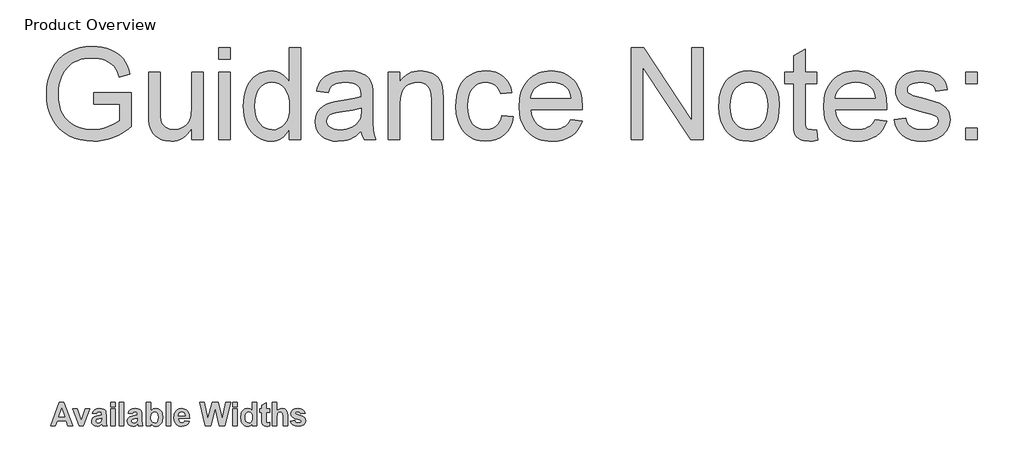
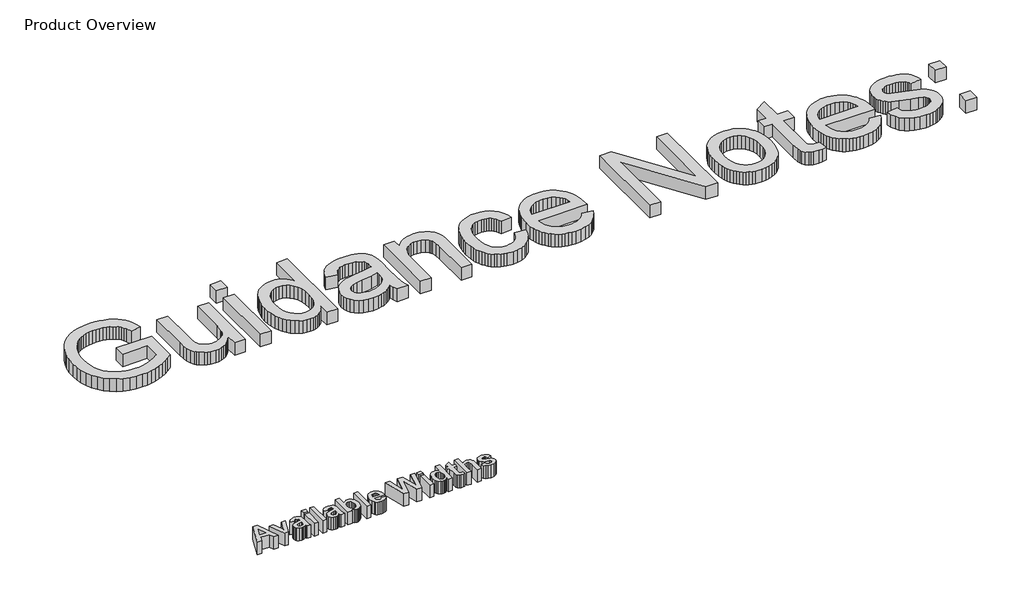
# One storey, part 10 of 12: 2 proxies.
"""IFC4 building model written with IfcOpenShell, lengths in millimetres."""

from ifc_helpers import new_model, si_unit, origin, origin_with_axes, place, context, project, spatial, polyline, outline, extrude, element, save

model = new_model("IFC4")

# Units and contexts
model_context = context("Model", 3, world=origin())
ifc_project = project(units=[si_unit("LENGTHUNIT", "METRE", prefix="MILLI")], contexts=[model_context])

# Site, building, storey
site = spatial("IfcSite", under=ifc_project)
building = spatial("IfcBuilding", under=site)
storey = spatial("IfcBuildingStorey", under=building, Name="Product Overview", Elevation=0.0)

# Proxies
placement = place(None, origin())
element("IfcBuildingElementProxy", 1, Name="1000mm", ObjectType="1000mm", at=placement, inside=storey, context=model_context, shape_type="SweptSolid", body=[
    extrude(outline(polyline([(8665.372592, -8459.5655223), (8665.372592, -8337.1412799), (9063.2513799, -8337.1412799), (9063.2513799, -8703.2184579), (9015.2874387, -8739.2194345), (8966.5613349, -8770.4681028), (8917.0730684, -8796.9644629), (8866.8226393, -8818.7085147), (8815.8698251, -8835.6554252), (8764.2744031, -8847.7603613), (8712.0363734, -8855.023323), (8659.1557359, -8857.4443102), (8588.8350239, -8853.5961361), (8521.8170167, -8842.0516137), (8458.1017143, -8822.8107431), (8397.6891166, -8795.8735242), (8342.5294634, -8761.643455), (8294.5729945, -8720.5240332), (8253.8197097, -8672.5152589), (8220.269609, -8617.6171322), (8194.0646641, -8557.5856158), (8175.3468463, -8494.1766729), (8164.1161556, -8427.3903033), (8160.372592, -8357.2265072), (8164.1012112, -8287.0552388), (8175.2870688, -8219.2900133), (8193.9301648, -8153.9308307), (8220.0304992, -8090.9776909), (8253.1247967, -8033.1953015), (8292.7497819, -7983.3483703), (8338.9054548, -7941.4368972), (8391.5918155, -7907.4608822), (8449.6656199, -7881.2036319), (8511.9836242, -7862.4484532), (8578.5458283, -7851.1953459), (8649.3522321, -7847.4443102), (8701.0447925, -7849.6187154), (8750.1968107, -7856.1419309), (8796.8082868, -7867.0139568), (8840.8792208, -7882.2347931), (8881.3709792, -7901.3336923), (8917.2449286, -7923.8399068), (8948.5010691, -7949.7534366), (8975.1394007, -7979.0742818), (8998.0117521, -8012.4674666), (9017.9699523, -8050.5980152), (9035.0140012, -8093.4659277), (9049.1438988, -8141.0712041), (8936.2840503, -8172.872814), (8911.08785, -8108.3430436), (8896.449844, -8082.0185437), (8880.4519007, -8059.6543007), (8861.9806649, -8040.286403), (8839.9227814, -8022.950939), (8814.2782501, -8007.6479087), (8785.0470712, -7994.3773121), (8753.1782117, -7983.6547298), (8719.6206389, -7975.9957425), (8684.3743528, -7971.4003501), (8647.4393534, -7969.8685526), (8603.6598345, -7971.519905), (8562.9439106, -7976.4739622), (8525.2915817, -7984.7307241), (8490.7028477, -7996.2901909), (8459.2449582, -8010.5321712), (8430.985163, -8026.836474), (8405.923462, -8045.2030992), (8384.0598552, -8065.6320469), (8348.0439343, -8110.6743646), (8321.0544102, -8159.9608822), (8304.3167208, -8205.2423097), (8292.3612284, -8252.3768386), (8285.1879329, -8301.3644688), (8282.7968344, -8352.2052003), (8285.6736248, -8413.3351275), (8294.3039959, -8469.2793599), (8308.6879477, -8520.0378974), (8328.8254802, -8565.6107401), (8354.4550671, -8605.8260278), (8385.315182, -8640.5119001), (8421.4058247, -8669.6683573), (8462.7269954, -8693.2953992), (8507.3433987, -8711.5499417), (8553.3197392, -8724.5889006), (8600.6560171, -8732.412276), (8649.3522321, -8735.0200678), (8692.0109235, -8733.0548837), (8734.1465622, -8727.1593315), (8775.759148, -8717.3334112), (8816.848681, -8703.5771227), (8888.6713017, -8671.088072), (8940.8271374, -8636.5068102), (8940.8271374, -8459.5655223), (8665.372592, -8459.5655223)])), origin_with_axes(), (0.0, 0.0, 1.0), 150.0),
    extrude(outline(polyline([(9705.9786526, -8842.1412799), (9705.9786526, -8718.5214882), (9684.7427092, -8751.0815246), (9661.6835532, -8779.3002228), (9636.8011846, -8803.1775829), (9610.0956034, -8822.7136047), (9581.5668096, -8837.9082883), (9551.2148032, -8848.7616338), (9519.0395842, -8855.2736411), (9485.0411526, -8857.4443102), (9425.4131341, -8851.347009), (9397.1458667, -8843.7253826), (9369.9097606, -8833.0551056), (9323.3431176, -8805.5574731), (9305.2156022, -8789.4773358), (9290.5252909, -8771.8429844), (9268.4375186, -8730.8954229), (9254.061039, -8681.6985715), (9248.6810674, -8635.3112609), (9246.8877435, -8567.8822837), (9246.8877435, -8122.8988556), (9369.3119859, -8122.8988556), (9369.3119859, -8510.2568102), (9371.1650873, -8587.7284011), (9376.7243912, -8635.0721511), (9384.0546025, -8657.1375068), (9394.5679637, -8676.7071535), (9408.2644747, -8693.7810911), (9425.1441356, -8708.3593197), (9444.6988378, -8720.023397), (9466.4204731, -8728.3548807), (9490.3090414, -8733.353771), (9516.3645427, -8735.0200678), (9543.1971511, -8733.3164101), (9569.1779305, -8728.2054371), (9594.3068812, -8719.6871487), (9618.584003, -8707.761545), (9640.6941918, -8692.8993735), (9659.3223434, -8675.5713817), (9674.4684579, -8655.7775695), (9686.1325352, -8633.5179371), (9694.8152115, -8607.3727696), (9701.0171232, -8575.9223523), (9705.9786526, -8497.1057685), (9705.9786526, -8122.8988556), (9828.402895, -8122.8988556), (9828.402895, -8842.1412799), (9705.9786526, -8842.1412799)])), origin_with_axes(), (0.0, 0.0, 1.0), 150.0),
    extrude(outline(polyline([(9996.7362284, -8842.1412799), (9996.7362284, -8122.8988556), (10119.1604708, -8122.8988556), (10119.1604708, -8842.1412799), (9996.7362284, -8842.1412799)])), origin_with_axes(), (0.0, 0.0, 1.0), 150.0),
    extrude(outline(polyline([(9996.7362284, -7985.1715829), (9996.7362284, -7862.7473405), (10119.1604708, -7862.7473405), (10119.1604708, -7985.1715829), (9996.7362284, -7985.1715829)])), origin_with_axes(), (0.0, 0.0, 1.0), 150.0),
    extrude(outline(polyline([(10746.5847132, -8842.1412799), (10746.5847132, -8726.6512231), (10729.2380409, -8757.3058529), (10709.9560733, -8783.8731987), (10688.7388103, -8806.3532605), (10665.586252, -8824.7460384), (10640.4983984, -8839.0515323), (10613.4752494, -8849.2697422), (10584.5168051, -8855.4006682), (10553.6230655, -8857.4443102), (10513.2135011, -8854.4853258), (10474.4777056, -8845.6083727), (10437.4156791, -8830.8134508), (10402.0274215, -8810.1005602), (10369.4188159, -8784.089892), (10340.6957454, -8753.4016374), (10315.8582099, -8718.0357963), (10294.9062094, -8677.9923689), (10278.2731306, -8634.0335177), (10266.39236, -8586.9214054), (10259.2638976, -8536.6560319), (10256.8877435, -8483.2373973), (10259.0770931, -8430.7976187), (10265.6451417, -8380.8386047), (10276.5918895, -8333.3603554), (10291.9173363, -8288.3628708), (10311.6140101, -8247.161255), (10335.6744386, -8211.0706123), (10364.0986218, -8180.0909425), (10396.8865598, -8154.2222458), (10432.8800642, -8133.8231868), (10470.9209466, -8119.2524305), (10511.0092072, -8110.5099766), (10553.1448458, -8107.5958253), (10583.9601275, -8109.6805643), (10613.0418628, -8115.9347813), (10640.3900517, -8126.3584763), (10666.0046943, -8140.9516492), (10689.6018474, -8158.8774157), (10710.8975683, -8179.2988912), (10729.8918569, -8202.2160757), (10746.5847132, -8227.6289693), (10746.5847132, -7862.7473405), (10869.0089556, -7862.7473405), (10869.0089556, -8842.1412799), (10746.5847132, -8842.1412799)]), holes=[polyline([(10379.3119859, -8482.7591776), (10382.7641344, -8542.1256697), (10393.1205797, -8593.4969262), (10410.3813219, -8636.8729471), (10434.5463609, -8672.2537325), (10463.4039308, -8699.7140042), (10494.7422653, -8719.328484), (10528.5613645, -8731.0971718), (10564.8612284, -8735.0200678), (10601.3329524, -8731.2765042), (10634.9503027, -8720.0458135), (10665.7132791, -8701.3279957), (10693.6218818, -8675.1230507), (10716.7931205, -8641.2217575), (10733.3440053, -8599.4148949), (10743.2745362, -8549.702463), (10746.5847132, -8492.0844617), (10743.2147588, -8428.9146286), (10733.1048955, -8374.7413036), (10716.2551234, -8329.5644866), (10692.6654424, -8293.3841776), (10664.1441208, -8265.6623796), (10632.4994267, -8245.8610952), (10597.7313603, -8233.9803246), (10559.8399215, -8230.0200678), (10522.8227281, -8233.8234088), (10489.0036289, -8245.2334319), (10458.382624, -8264.250137), (10430.9597132, -8290.8735242), (10408.3638325, -8325.6864237), (10392.2239177, -8369.2716658), (10382.5399689, -8421.6292504), (10379.3119859, -8482.7591776)])]), origin_with_axes(), (0.0, 0.0, 1.0), 150.0),
    extrude(outline(polyline([(11511.7362284, -8750.3230981), (11482.7067983, -8777.5666764), (11453.2439817, -8800.4763888), (11423.3477784, -8819.0522351), (11393.0181886, -8833.2942155), (11361.9114917, -8843.8598819), (11329.6839675, -8851.4067865), (11261.8664367, -8857.4443102), (11207.3568634, -8853.8128294), (11159.5573103, -8842.9183869), (11118.4677772, -8824.7609828), (11084.0882643, -8799.340617), (11056.9418244, -8768.2712811), (11037.5515101, -8733.1669664), (11025.9173215, -8694.0276731), (11022.0392587, -8650.8534011), (11027.8974499, -8600.1023358), (11045.4720238, -8554.0139125), (11072.5811029, -8514.5607875), (11107.0428098, -8483.715617), (11147.5420404, -8460.4024068), (11192.7636905, -8443.5451625), (11236.8196801, -8434.1601009), (11298.6893534, -8425.1337041), (11423.863359, -8405.7658064), (11472.1934372, -8394.8265308), (11511.0188988, -8383.0503708), (11511.7362284, -8355.7918481), (11509.6290728, -8326.1123381), (11503.3076062, -8301.1552477), (11492.7718285, -8280.9205768), (11478.0217397, -8265.4083253), (11452.5266521, -8249.9259626), (11421.4722606, -8238.8671322), (11384.858565, -8232.2318339), (11342.6855655, -8230.0200678), (11303.4715503, -8231.4920878), (11269.7570617, -8235.9081478), (11241.5420996, -8243.2682478), (11218.826664, -8253.5723878), (11200.1611514, -8267.6275636), (11184.0959585, -8286.2407709), (11170.6310851, -8309.4120096), (11159.7665314, -8337.1412799), (11037.342289, -8321.8382496), (11046.6601009, -8286.5695469), (11058.5931767, -8254.887492), (11073.1415166, -8226.7920848), (11090.3051204, -8202.2833253), (11110.8237343, -8180.8680495), (11135.4371043, -8162.0530933), (11164.1452305, -8145.8384567), (11196.9481128, -8132.2241397), (11233.1807271, -8121.4492522), (11272.1780489, -8113.7529039), (11313.9400784, -8109.135095), (11358.4668155, -8107.5958253), (11441.2287118, -8113.0355744), (11476.1761106, -8119.8352607), (11506.8344765, -8129.3548215), (11556.3003264, -8153.8934698), (11575.3618646, -8168.2475328), (11590.6424784, -8183.9914219), (11613.4176914, -8221.2028921), (11628.1827246, -8267.0820943), (11632.6660342, -8309.4045375), (11634.1604708, -8374.2033064), (11634.1604708, -8526.5162799), (11635.7146848, -8659.1923571), (11640.3773268, -8739.2044901), (11649.583056, -8791.778768), (11664.7665314, -8842.1412799), (11542.342289, -8842.1412799), (11522.7352814, -8799.5797269), (11511.7362284, -8750.3230981)]), holes=[polyline([(11511.7362284, -8505.4746132), (11429.4824405, -8525.8587278), (11314.2314935, -8543.0148594), (11250.71794, -8552.399921), (11208.9036052, -8562.8609769), (11181.4956389, -8576.4304608), (11161.2011905, -8595.1408064), (11148.6479234, -8617.5573547), (11144.4635011, -8642.2454465), (11146.7425168, -8661.2696239), (11153.5795641, -8678.649921), (11164.9746428, -8694.3863379), (11180.927753, -8708.4788746), (11201.289451, -8720.0906466), (11225.9102932, -8728.3847695), (11254.7902796, -8733.3612432), (11287.9294102, -8735.0200678), (11321.7634537, -8733.189383), (11353.6846185, -8727.6973287), (11383.6929045, -8718.5439048), (11411.7883117, -8705.7291113), (11437.1339556, -8690.3139983), (11458.8929518, -8673.3596156), (11477.0653003, -8654.8659632), (11491.6510011, -8634.8330412), (11500.1244563, -8616.8998026), (11506.1769244, -8595.1408064), (11511.0188988, -8540.1455412), (11511.7362284, -8505.4746132)])]), origin_with_axes(), (0.0, 0.0, 1.0), 150.0),
    extrude(outline(polyline([(11802.4938041, -8842.1412799), (11802.4938041, -8122.8988556), (11924.9180465, -8122.8988556), (11924.9180465, -8223.324992), (11945.1153565, -8196.2009686), (11967.4497108, -8172.6934816), (11991.9211094, -8152.8025311), (12018.5295522, -8136.528117), (12047.2750393, -8123.8702394), (12078.1575707, -8114.8288983), (12111.1771463, -8109.4040936), (12146.3337662, -8107.5958253), (12206.6791142, -8113.4241279), (12261.943378, -8130.9090356), (12286.6464142, -8143.477247), (12308.0318013, -8157.868671), (12326.0995392, -8174.0833076), (12340.849628, -8192.1211568), (12363.1167326, -8233.5768268), (12377.5529897, -8282.1460147), (12382.3949641, -8328.5931028), (12384.0089556, -8400.5053897), (12384.0089556, -8842.1412799), (12261.5847132, -8842.1412799), (12261.5847132, -8417.0039693), (12258.0578429, -8353.6996369), (12247.4772321, -8308.6872079), (12239.0710265, -8291.6581034), (12227.9598908, -8276.4372671), (12197.6228287, -8251.4203992), (12158.7375896, -8235.3701506), (12113.575717, -8230.0200678), (12076.4016077, -8233.0238852), (12041.8726512, -8242.0353376), (12009.9888473, -8257.054425), (11980.7501962, -8278.0811473), (11956.3236307, -8307.506603), (11938.8760839, -8347.7218907), (11928.4075559, -8398.7270102), (11924.9180465, -8460.5219617), (11924.9180465, -8842.1412799), (11802.4938041, -8842.1412799)])), origin_with_axes(), (0.0, 0.0, 1.0), 150.0),
    extrude(outline(polyline([(13011.4331981, -8581.9897647), (13133.8574405, -8597.292795), (13120.5420108, -8655.06024), (13099.7245096, -8706.1774423), (13071.4049369, -8750.6444019), (13035.5832927, -8788.4611189), (12993.768958, -8818.6412651), (12947.4713136, -8840.1985124), (12896.6903595, -8853.1328607), (12841.4260958, -8857.4443102), (12772.7642083, -8851.4292031), (12741.0952297, -8843.9103192), (12711.2008945, -8833.3838817), (12683.0812028, -8819.8498906), (12656.7361544, -8803.3083461), (12632.1657494, -8783.7592479), (12609.3699878, -8761.2025962), (12588.8308254, -8735.8364037), (12571.0302181, -8707.8586834), (12555.9681656, -8677.2694352), (12543.6446682, -8644.0686591), (12534.0597258, -8608.2563552), (12527.2133383, -8569.8325234), (12521.7362284, -8485.1502761), (12524.0750216, -8428.8623233), (12531.0914012, -8376.2058514), (12542.7853672, -8327.1808603), (12559.1569196, -8281.78735), (12580.3181412, -8240.9369268), (12606.3811147, -8205.541197), (12637.3458401, -8175.6001607), (12673.2123174, -8151.1138178), (12712.3590829, -8132.0746961), (12753.164673, -8118.4753234), (12795.6290876, -8110.3156999), (12839.7523268, -8107.5958253), (12894.0676234, -8111.3319167), (12943.197225, -8122.5401909), (12987.1411319, -8141.2206478), (13025.8993439, -8167.3732875), (13058.814309, -8200.4003353), (13085.228475, -8239.7040166), (13105.1418421, -8285.2843315), (13118.5544102, -8337.1412799), (12996.1301677, -8352.4443102), (12986.573246, -8323.8482667), (12973.9228406, -8299.0331478), (12958.1789515, -8277.9989533), (12939.3415787, -8260.7456833), (12917.888942, -8247.3032265), (12894.299261, -8237.7014716), (12868.5725358, -8231.9404187), (12840.7087662, -8230.0200678), (12799.1111248, -8233.8009922), (12761.5932951, -8245.1437657), (12728.1552772, -8264.0483881), (12698.7970712, -8290.5148594), (12674.8935585, -8325.1558987), (12657.8196209, -8368.584225), (12647.5752583, -8420.7998381), (12644.1604708, -8481.8027382), (12647.5005365, -8543.7247168), (12657.5207336, -8596.5455768), (12674.221062, -8640.2653181), (12697.6015219, -8674.8839409), (12726.3768977, -8701.1934964), (12759.2619741, -8719.986036), (12796.256751, -8731.2615598), (12837.3612284, -8735.0200678), (12870.4854146, -8732.6738024), (12900.7552269, -8725.6350062), (12928.1706655, -8713.9036793), (12952.7317302, -8697.4798215), (12973.7509804, -8676.1841007), (12990.540975, -8649.8371842), (13003.1017143, -8618.4390723), (13011.4331981, -8581.9897647)])), origin_with_axes(), (0.0, 0.0, 1.0), 150.0),
    extrude(outline(polyline([(13744.5439935, -8627.8988556), (13864.5771374, -8643.2018859), (13846.1731513, -8691.2779099), (13821.3281436, -8733.6451861), (13790.0421144, -8770.3037148), (13752.3150636, -8801.2534958), (13708.5355448, -8825.8369771), (13659.0921114, -8843.3966066), (13603.9847635, -8853.9323843), (13543.2135011, -8857.4443102), (13504.1974988, -8855.9293251), (13467.2512911, -8851.38437), (13432.374878, -8843.8094447), (13399.5682596, -8833.2045493), (13368.8314358, -8819.5696838), (13340.1644066, -8802.9048482), (13313.5671721, -8783.2100425), (13289.0397321, -8760.4852666), (13267.0154734, -8735.0256719), (13247.9277826, -8707.1264095), (13231.7766595, -8676.7874794), (13218.5621043, -8644.0088817), (13208.2841169, -8608.7906163), (13200.9426973, -8571.1326832), (13195.0695617, -8488.497814), (13201.0024748, -8403.0608762), (13208.4186162, -8364.1420123), (13218.8012141, -8327.7562183), (13232.1502687, -8293.9034943), (13248.4657797, -8262.5838403), (13267.7477474, -8233.7972561), (13289.9961715, -8207.543742), (13314.6095416, -8184.118449), (13340.9863467, -8163.8165285), (13369.126587, -8146.6379803), (13399.0302624, -8132.5828045), (13430.697373, -8121.6510011), (13464.1279187, -8113.8425701), (13499.3218995, -8109.1575115), (13536.2793155, -8107.5958253), (13572.0281059, -8109.1537754), (13606.1068634, -8113.8276258), (13638.5155881, -8121.6173763), (13669.25428, -8132.523027), (13698.322939, -8146.544578), (13725.7215651, -8163.6820292), (13751.4501584, -8183.9353806), (13775.5087189, -8207.3046322), (13797.2807914, -8233.4983688), (13816.1499209, -8262.2251755), (13832.1161075, -8293.4850521), (13845.179351, -8327.2779986), (13855.3396515, -8363.6040151), (13862.597009, -8402.4631016), (13868.402895, -8487.7804844), (13867.6855655, -8520.7776435), (13317.4938041, -8520.7776435), (13324.5849056, -8569.6307744), (13338.6849144, -8612.416493), (13359.7938307, -8649.1347991), (13387.9116545, -8679.7856928), (13421.4841717, -8703.9507318), (13458.9571682, -8721.211474), (13500.3306442, -8731.5679193), (13545.6045996, -8735.0200678), (13579.4685319, -8733.4210207), (13610.7620333, -8728.6238793), (13639.4851038, -8720.6286438), (13665.6377435, -8709.435314), (13689.2199523, -8694.7450027), (13710.2317302, -8676.2588225), (13728.6730773, -8653.9767735), (13744.5439935, -8627.8988556)]), holes=[polyline([(13317.4938041, -8398.3534011), (13745.9786526, -8398.3534011), (13739.6870747, -8363.7123618), (13729.4202956, -8333.6741871), (13715.1783152, -8308.2388769), (13696.9611337, -8287.4064314), (13663.5754211, -8262.2998973), (13625.5868439, -8244.3666587), (13582.9954021, -8233.6067155), (13535.8010958, -8230.0200678), (13492.7538509, -8232.8819138), (13453.2783093, -8241.4674518), (13417.3744711, -8255.7766818), (13385.0423363, -8275.8096037), (13357.9108407, -8300.6396671), (13337.6089201, -8329.3403211), (13324.1365746, -8361.9115657), (13317.4938041, -8398.3534011)])]), origin_with_axes(), (0.0, 0.0, 1.0), 150.0),
    extrude(outline(polyline([(14388.7059253, -8842.1412799), (14388.7059253, -7862.7473405), (14519.7381223, -7862.7473405), (15031.4331981, -8638.6587988), (15031.4331981, -7862.7473405), (15153.8574405, -7862.7473405), (15153.8574405, -8842.1412799), (15022.8252435, -8842.1412799), (14511.1301677, -8065.9907117), (14511.1301677, -8842.1412799), (14388.7059253, -8842.1412799)])), origin_with_axes(), (0.0, 0.0, 1.0), 150.0),
    extrude(outline(polyline([(15322.1907738, -8482.5200678), (15323.8458623, -8434.3356972), (15328.8111277, -8389.3718374), (15337.0865702, -8347.6284884), (15348.6721895, -8309.1056501), (15363.5679859, -8273.8033227), (15381.7739592, -8241.721506), (15403.2901095, -8212.8602), (15428.1164367, -8187.2194049), (15474.7727459, -8152.3840888), (15526.2710295, -8127.5017202), (15582.6112875, -8112.5722991), (15643.79352, -8107.5958253), (15711.33458, -8113.6557656), (15742.6785187, -8121.2306908), (15772.4047298, -8131.8355862), (15800.5132133, -8145.4704517), (15827.0039692, -8162.1352873), (15851.8769976, -8181.8300931), (15875.1322984, -8204.5548689), (15896.1758331, -8229.9509501), (15914.4135632, -8257.6596718), (15929.8454887, -8287.6810341), (15942.4716095, -8320.015037), (15952.2919257, -8354.6616804), (15959.3064373, -8391.6209644), (15964.9180465, -8472.4774541), (15962.4372819, -8538.008497), (15954.9949878, -8596.1570233), (15942.5911644, -8646.923033), (15925.2258117, -8690.3065261), (15903.1156229, -8727.7795227), (15876.4772913, -8760.8140427), (15845.310817, -8789.4100861), (15809.6161999, -8813.567653), (15770.7832661, -8832.7636905), (15730.2018415, -8846.4751459), (15687.8719262, -8854.7020191), (15643.79352, -8857.4443102), (15575.2661319, -8851.4067865), (15543.585945, -8843.8598819), (15513.6280963, -8833.2942155), (15485.3925856, -8819.7097872), (15458.8794131, -8803.1065971), (15434.0885788, -8783.4846452), (15411.0200825, -8760.8439314), (15390.2007133, -8735.3637882), (15372.15726, -8707.2235479), (15356.8897225, -8676.4232105), (15344.398101, -8642.9627761), (15334.6823953, -8606.8422446), (15327.7426056, -8568.0616161), (15322.1907738, -8482.5200678)]), holes=[polyline([(15444.6150162, -8482.2809579), (15448.1568309, -8541.6623943), (15458.7822748, -8593.078484), (15476.4913479, -8636.5292267), (15501.2840503, -8672.0146227), (15531.44178, -8699.5795049), (15565.2459348, -8719.2687065), (15602.6965148, -8731.0822274), (15643.79352, -8735.0200678), (15684.6813041, -8731.0598109), (15721.9824405, -8719.1790403), (15755.6969291, -8699.377756), (15785.82477, -8671.6559579), (15810.6174724, -8635.8193694), (15828.3265456, -8591.6737136), (15838.9519895, -8539.2189906), (15842.4938041, -8478.4552003), (15838.9295729, -8420.956754), (15828.2368794, -8370.8856573), (15810.4157235, -8328.2419102), (15785.4661052, -8293.0255128), (15755.2261816, -8265.4606306), (15721.5341095, -8245.771429), (15684.389889, -8233.9579081), (15643.79352, -8230.0200678), (15602.6965148, -8233.9429637), (15565.2459348, -8245.7116516), (15531.44178, -8265.3261313), (15501.2840503, -8292.786403), (15476.4913479, -8328.1671884), (15458.7822748, -8371.5432093), (15448.1568309, -8422.9144658), (15444.6150162, -8482.2809579)])]), origin_with_axes(), (0.0, 0.0, 1.0), 150.0),
    extrude(outline(polyline([(16362.7968344, -8740.0413746), (16378.0998647, -8845.7279276), (16329.6203429, -8854.5152145), (16286.5207927, -8857.4443102), (16227.7595475, -8852.3632259), (16203.9830619, -8846.0118706), (16183.9426677, -8837.1199731), (16152.9779424, -8813.6274305), (16132.7731602, -8783.7984769), (16126.2873055, -8762.7418658), (16121.6545522, -8732.5691918), (16117.9483496, -8644.8756549), (16117.9483496, -8245.3230981), (16026.1301677, -8245.3230981), (16026.1301677, -8122.8988556), (16117.9483496, -8122.8988556), (16117.9483496, -7948.1095564), (16240.372592, -7876.137492), (16240.372592, -8122.8988556), (16362.7968344, -8122.8988556), (16362.7968344, -8245.3230981), (16240.372592, -8245.3230981), (16240.372592, -8641.2890072), (16241.9865835, -8681.5790166), (16246.8285579, -8704.4140072), (16255.2870688, -8717.0569404), (16267.7506696, -8726.770778), (16285.4149097, -8732.9577453), (16309.4753382, -8735.0200678), (16362.7968344, -8740.0413746)])), origin_with_axes(), (0.0, 0.0, 1.0), 150.0),
    extrude(outline(polyline([(16988.7864177, -8627.8988556), (17108.8195617, -8643.2018859), (17090.4155755, -8691.2779099), (17065.5705678, -8733.6451861), (17034.2845386, -8770.3037148), (16996.5574878, -8801.2534958), (16952.777969, -8825.8369771), (16903.3345356, -8843.3966066), (16848.2271878, -8853.9323843), (16787.4559253, -8857.4443102), (16748.439923, -8855.9293251), (16711.4937153, -8851.38437), (16676.6173023, -8843.8094447), (16643.8106838, -8833.2045493), (16613.07386, -8819.5696838), (16584.4068309, -8802.9048482), (16557.8095963, -8783.2100425), (16533.2821564, -8760.4852666), (16511.2578977, -8735.0256719), (16492.1702068, -8707.1264095), (16476.0190838, -8676.7874794), (16462.8045285, -8644.0088817), (16452.5265411, -8608.7906163), (16445.1851216, -8571.1326832), (16439.3119859, -8488.497814), (16445.244899, -8403.0608762), (16452.6610404, -8364.1420123), (16463.0436384, -8327.7562183), (16476.3926929, -8293.9034943), (16492.708204, -8262.5838403), (16511.9901716, -8233.7972561), (16534.2385958, -8207.543742), (16558.8519658, -8184.118449), (16585.228771, -8163.8165285), (16613.3690113, -8146.6379803), (16643.2726867, -8132.5828045), (16674.9397972, -8121.6510011), (16708.3703429, -8113.8425701), (16743.5643238, -8109.1575115), (16780.5217397, -8107.5958253), (16816.2705301, -8109.1537754), (16850.3492877, -8113.8276258), (16882.7580124, -8121.6173763), (16913.4967042, -8132.523027), (16942.5653632, -8146.544578), (16969.9639894, -8163.6820292), (16995.6925827, -8183.9353806), (17019.7511431, -8207.3046322), (17041.5232157, -8233.4983688), (17060.3923452, -8262.2251755), (17076.3585317, -8293.4850521), (17089.4217752, -8327.2779986), (17099.5820757, -8363.6040151), (17106.8394333, -8402.4631016), (17112.6453193, -8487.7804844), (17111.9279897, -8520.7776435), (16561.7362284, -8520.7776435), (16568.8273298, -8569.6307744), (16582.9273387, -8612.416493), (16604.036255, -8649.1347991), (16632.1540787, -8679.7856928), (16665.7265959, -8703.9507318), (16703.1995925, -8721.211474), (16744.5730684, -8731.5679193), (16789.8470238, -8735.0200678), (16823.7109561, -8733.4210207), (16855.0044575, -8728.6238793), (16883.7275281, -8720.6286438), (16909.8801677, -8709.435314), (16933.4623766, -8694.7450027), (16954.4741545, -8676.2588225), (16972.9155016, -8653.9767735), (16988.7864177, -8627.8988556)]), holes=[polyline([(16561.7362284, -8398.3534011), (16990.2210768, -8398.3534011), (16983.929499, -8363.7123618), (16973.6627198, -8333.6741871), (16959.4207395, -8308.2388769), (16941.2035579, -8287.4064314), (16907.8178453, -8262.2998973), (16869.8292681, -8244.3666587), (16827.2378264, -8233.6067155), (16780.04352, -8230.0200678), (16736.9962751, -8232.8819138), (16697.5207336, -8241.4674518), (16661.6168954, -8255.7766818), (16629.2847606, -8275.8096037), (16602.1532649, -8300.6396671), (16581.8513444, -8329.3403211), (16568.3789988, -8361.9115657), (16561.7362284, -8398.3534011)])]), origin_with_axes(), (0.0, 0.0, 1.0), 150.0),
    extrude(outline(polyline([(17189.1604708, -8627.8988556), (17311.5847132, -8612.5958253), (17318.9821741, -8640.5119001), (17330.8928335, -8664.9608822), (17347.3166912, -8685.9427714), (17368.2537473, -8703.4575678), (17393.7637793, -8717.2661615), (17423.9065645, -8727.1294428), (17458.6821031, -8733.0474115), (17498.090395, -8735.0200678), (17537.4538538, -8733.2117995), (17571.3775636, -8727.7869948), (17599.8615243, -8718.7456537), (17622.9057359, -8706.0877761), (17640.6895309, -8690.9939669), (17653.3922416, -8674.644831), (17661.013868, -8657.0403684), (17663.5544102, -8638.1805791), (17660.9989237, -8621.6521108), (17653.3324641, -8606.9767439), (17640.5550316, -8594.1544783), (17622.6666261, -8583.185314), (17576.8173126, -8567.6431738), (17496.6557359, -8548.2752761), (17384.9316592, -8515.9655578), (17312.3020427, -8488.378259), (17287.3673689, -8474.5472488), (17265.6457336, -8458.2803069), (17247.1371369, -8439.5774334), (17231.8415787, -8418.4386284), (17219.8636698, -8395.4990273), (17211.3080205, -8371.3937657), (17206.1746309, -8346.1228436), (17204.4635011, -8319.6862609), (17209.9630276, -8272.2528448), (17226.4616071, -8228.4658537), (17252.4648032, -8190.0588343), (17286.4781791, -8158.7653329), (17320.2823339, -8139.0686591), (17364.3084348, -8122.5401909), (17415.2089438, -8111.3319167), (17469.6363231, -8107.5958253), (17510.7781614, -8109.0977341), (17549.3196801, -8113.6034603), (17585.2608792, -8121.113004), (17618.6017587, -8131.6263651), (17648.5502672, -8144.7026849), (17674.3143534, -8159.9011047), (17695.8940172, -8177.2216243), (17713.2892587, -8196.6642439), (17727.3967397, -8218.908932), (17739.1131223, -8244.6356573), (17748.4384064, -8273.8444197), (17755.372592, -8306.5352193), (17632.9483496, -8321.8382496), (17627.1125748, -8301.3868854), (17617.4958756, -8283.3116752), (17604.0982519, -8267.6126193), (17586.9197037, -8254.2897174), (17565.8855092, -8243.6717457), (17540.9209466, -8236.0874802), (17512.0260159, -8231.5369209), (17479.200717, -8230.0200678), (17441.1224736, -8231.4696712), (17408.9024215, -8235.8184816), (17382.5405607, -8243.0664989), (17362.0368912, -8253.2137231), (17346.6591391, -8265.2887704), (17335.6750304, -8278.3202572), (17329.0845652, -8292.3081833), (17326.8877435, -8307.2525488), (17330.5341687, -8326.0824494), (17341.4734443, -8342.8799162), (17360.1837899, -8357.8840592), (17387.1434253, -8369.8993291), (17492.5908685, -8395.9623026), (17600.7581862, -8427.9432448), (17672.2819196, -8453.5877761), (17697.4482312, -8466.09621), (17719.7452246, -8481.1451861), (17739.1728998, -8498.7347044), (17755.7312568, -8518.8647647), (17768.9644924, -8541.565256), (17778.4168036, -8566.8660668), (17784.0881904, -8594.7671973), (17785.9786526, -8625.2686473), (17783.7594143, -8655.9045966), (17777.1016995, -8685.643884), (17766.0055081, -8714.4865095), (17750.4708401, -8742.4324731), (17730.7517498, -8768.3684194), (17707.1022913, -8791.1809934), (17679.5224647, -8810.870195), (17648.01227, -8827.4360242), (17613.4310082, -8840.5646493), (17576.6379802, -8849.9422387), (17537.6331862, -8855.5687923), (17496.4166261, -8857.4443102), (17430.5269185, -8853.8277737), (17372.9761668, -8842.9781644), (17323.7643711, -8824.8954821), (17282.8915314, -8799.5797269), (17249.5058188, -8767.1504537), (17222.7554045, -8727.7272174), (17202.6402885, -8681.310018), (17189.1604708, -8627.8988556)])), origin_with_axes(), (0.0, 0.0, 1.0), 150.0),
    extrude(outline(polyline([(17954.3119859, -8842.1412799), (17954.3119859, -8719.7170375), (18076.7362284, -8719.7170375), (18076.7362284, -8842.1412799), (17954.3119859, -8842.1412799)])), origin_with_axes(), (0.0, 0.0, 1.0), 150.0),
    extrude(outline(polyline([(17954.3119859, -8245.3230981), (17954.3119859, -8122.8988556), (18076.7362284, -8122.8988556), (18076.7362284, -8245.3230981), (17954.3119859, -8245.3230981)])), origin_with_axes(), (0.0, 0.0, 1.0), 150.0),
])
element("IfcBuildingElementProxy", 2, Name="250.0 BOLD", ObjectType="250.0 BOLD", at=placement, inside=storey, context=model_context, shape_type="SweptSolid", body=[
    extrude(outline(polyline([(8437.4567345, -11893.8362158), (8387.4195322, -11893.8362158), (8367.8262782, -11838.2806603), (8273.3942345, -11838.2806603), (8254.0489965, -11893.8362158), (8203.3297504, -11893.8362158), (8294.5995917, -11643.8362158), (8345.3188377, -11643.8362158), (8437.4567345, -11893.8362158)]), holes=[polyline([(8352.573302, -11794.6298666), (8320.3932425, -11703.3600253), (8288.6472107, -11794.6298666), (8352.573302, -11794.6298666)])]), origin_with_axes(), (0.0, 0.0, 1.0), 150.0),
    extrude(outline(polyline([(8510.2493933, -11893.8362158), (8439.4408615, -11711.2965333), (8487.0599092, -11711.2965333), (8520.9140758, -11804.4264936), (8530.7107028, -11835.5524857), (8535.5470123, -11819.9274857), (8540.5693338, -11804.4264936), (8574.3614965, -11711.2965333), (8621.9805441, -11711.2965333), (8552.1640758, -11893.8362158), (8510.2493933, -11893.8362158)])), origin_with_axes(), (0.0, 0.0, 1.0), 150.0),
    extrude(outline(polyline([(8691.4249885, -11766.8520888), (8647.7741949, -11758.9155809), (8657.2375505, -11736.0361166), (8671.7387286, -11719.9770888), (8692.8743313, -11710.4904817), (8722.2409607, -11707.3282793), (8748.7941601, -11709.2426518), (8767.5658615, -11714.9857694), (8780.245673, -11723.666325), (8788.5232028, -11734.3930115), (8793.0804945, -11751.0643284), (8794.5995917, -11777.5787753), (8794.5995917, -11833.8783785), (8797.1107524, -11869.3446484), (8806.5043536, -11893.8362158), (8758.885306, -11893.8362158), (8754.4210203, -11878.7072476), (8752.7469131, -11872.6928627), (8727.2632822, -11891.511067), (8713.2348843, -11896.2311191), (8698.307429, -11897.8044698), (8674.0251249, -11893.9834753), (8655.4936889, -11882.5204916), (8643.7516874, -11865.229135), (8639.8376869, -11843.9230214), (8641.5815485, -11829.3210869), (8646.8131334, -11816.3932595), (8655.1914196, -11805.7130759), (8666.3753853, -11797.854073), (8702.6477068, -11786.6313547), (8746.9805441, -11774.7885968), (8746.9805441, -11769.7662753), (8745.5001993, -11757.3964837), (8741.0591651, -11749.1809579), (8732.525869, -11744.5771632), (8718.7687385, -11743.042565), (8708.8946066, -11744.3601494), (8701.4696314, -11748.3129023), (8691.4249885, -11766.8520888)]), holes=[polyline([(8746.9805441, -11810.5028825), (8720.1328258, -11817.1063051), (8696.0752861, -11824.6397873), (8689.6113724, -11831.4137208), (8687.4567345, -11839.8307595), (8689.1850952, -11848.2710497), (8694.370177, -11855.4867615), (8702.2214295, -11860.4393284), (8711.948302, -11862.0901841), (8723.620549, -11860.1680611), (8734.7037584, -11854.401692), (8745.244433, -11840.1407793), (8746.9805441, -11819.1214341), (8746.9805441, -11810.5028825)])]), origin_with_axes(), (0.0, 0.0, 1.0), 150.0),
    extrude(outline(polyline([(8842.2186393, -11687.4870095), (8842.2186393, -11643.8362158), (8889.8376869, -11643.8362158), (8889.8376869, -11687.4870095), (8842.2186393, -11687.4870095)])), origin_with_axes(), (0.0, 0.0, 1.0), 150.0),
    extrude(outline(polyline([(8842.2186393, -11893.8362158), (8842.2186393, -11711.2965333), (8889.8376869, -11711.2965333), (8889.8376869, -11893.8362158), (8842.2186393, -11893.8362158)])), origin_with_axes(), (0.0, 0.0, 1.0), 150.0),
    extrude(outline(polyline([(8937.4567345, -11893.8362158), (8937.4567345, -11643.8362158), (8985.0757822, -11643.8362158), (8985.0757822, -11893.8362158), (8937.4567345, -11893.8362158)])), origin_with_axes(), (0.0, 0.0, 1.0), 150.0),
    extrude(outline(polyline([(9072.3773695, -11766.8520888), (9028.7265758, -11758.9155809), (9038.1899315, -11736.0361166), (9052.6911095, -11719.9770888), (9073.8267122, -11710.4904817), (9103.1933417, -11707.3282793), (9129.7465411, -11709.2426518), (9148.5182425, -11714.9857694), (9161.198054, -11723.666325), (9169.4755838, -11734.3930115), (9174.0328754, -11751.0643284), (9175.5519726, -11777.5787753), (9175.5519726, -11833.8783785), (9178.0631334, -11869.3446484), (9187.4567345, -11893.8362158), (9139.8376869, -11893.8362158), (9135.3734012, -11878.7072476), (9133.6992941, -11872.6928627), (9108.2156631, -11891.511067), (9094.1872653, -11896.2311191), (9079.2598099, -11897.8044698), (9054.9775059, -11893.9834753), (9036.4460699, -11882.5204916), (9024.7040684, -11865.229135), (9020.7900679, -11843.9230214), (9022.5339295, -11829.3210869), (9027.7655143, -11816.3932595), (9036.1438005, -11805.7130759), (9047.3277663, -11797.854073), (9083.6000877, -11786.6313547), (9127.932925, -11774.7885968), (9127.932925, -11769.7662753), (9126.4525803, -11757.3964837), (9122.0115461, -11749.1809579), (9113.4782499, -11744.5771632), (9099.7211195, -11743.042565), (9089.8469875, -11744.3601494), (9082.4220123, -11748.3129023), (9072.3773695, -11766.8520888)]), holes=[polyline([(9127.932925, -11810.5028825), (9101.0852068, -11817.1063051), (9077.0276671, -11824.6397873), (9070.5637534, -11831.4137208), (9068.4091155, -11839.8307595), (9070.1374761, -11848.2710497), (9075.322558, -11855.4867615), (9083.1738104, -11860.4393284), (9092.900683, -11862.0901841), (9104.57293, -11860.1680611), (9115.6561393, -11854.401692), (9126.1968139, -11840.1407793), (9127.932925, -11819.1214341), (9127.932925, -11810.5028825)])]), origin_with_axes(), (0.0, 0.0, 1.0), 150.0),
    extrude(outline(polyline([(9223.1710203, -11893.8362158), (9223.1710203, -11643.8362158), (9270.7900679, -11643.8362158), (9270.7900679, -11732.3158785), (9294.6305937, -11713.5751791), (9308.0622033, -11708.8900043), (9322.5013774, -11707.3282793), (9338.1031259, -11708.8357508), (9352.2942842, -11713.3581652), (9365.0748521, -11720.8955226), (9376.4448298, -11731.447823), (9385.776427, -11744.8213039), (9392.4418536, -11760.8222029), (9397.7741949, -11800.7062555), (9392.4728556, -11841.9853974), (9385.8461815, -11858.6140866), (9376.5688377, -11872.5688547), (9353.1003357, -11891.495566), (9339.6687261, -11896.2272439), (9325.1055441, -11897.8044698), (9310.3253481, -11895.8978478), (9295.7466651, -11890.1779817), (9282.2685525, -11880.7068755), (9270.7900679, -11867.5465333), (9270.7900679, -11893.8362158), (9223.1710203, -11893.8362158)]), holes=[polyline([(9270.7900679, -11799.0941523), (9272.9912088, -11824.4847773), (9279.5946314, -11842.2489142), (9293.917548, -11857.1298666), (9312.3327266, -11862.0901841), (9326.8649067, -11858.5714589), (9339.0874389, -11848.0152833), (9347.3882202, -11829.9101246), (9350.1551472, -11803.74445), (9347.3727192, -11776.0054247), (9339.0254349, -11757.2724757), (9326.3223719, -11746.6000427), (9310.4726076, -11743.042565), (9294.8553581, -11746.5147873), (9282.1057921, -11756.9314539), (9273.6189989, -11774.416573), (9270.7900679, -11799.0941523)])]), origin_with_axes(), (0.0, 0.0, 1.0), 150.0),
    extrude(outline(polyline([(9433.4884806, -11893.8362158), (9433.4884806, -11643.8362158), (9481.1075282, -11643.8362158), (9481.1075282, -11893.8362158), (9433.4884806, -11893.8362158)])), origin_with_axes(), (0.0, 0.0, 1.0), 150.0),
    extrude(outline(polyline([(9631.901179, -11838.2806603), (9679.5202266, -11846.2171682), (9667.9254845, -11868.4378403), (9651.1224092, -11884.6286265), (9629.2815113, -11894.510509), (9602.573302, -11897.8044698), (9581.0075468, -11895.8629705), (9562.4412336, -11890.0384728), (9546.8743623, -11880.3309765), (9534.306933, -11866.7404817), (9521.1930937, -11838.6061811), (9516.8218139, -11803.9304619), (9518.2711567, -11782.5235918), (9522.6191849, -11763.5658785), (9529.8658987, -11747.057322), (9540.011298, -11732.9979222), (9552.3733392, -11721.7674534), (9566.2699786, -11713.74569), (9581.7012162, -11708.932632), (9598.667052, -11707.3282793), (9617.5201336, -11708.9752597), (9634.2728308, -11713.9162009), (9648.9251435, -11722.151103), (9661.4770718, -11733.6799658), (9671.479087, -11748.6112964), (9678.4816601, -11767.0536017), (9682.4847913, -11789.0068817), (9683.4884806, -11814.4711365), (9564.4408615, -11814.4711365), (9567.494557, -11834.5294202), (9575.6635798, -11849.5653825), (9587.7078506, -11858.9589837), (9602.3872901, -11862.0901841), (9612.38543, -11860.6795938), (9620.6784607, -11856.447823), (9627.2043784, -11849.0848517), (9631.901179, -11838.2806603)]), holes=[polyline([(9635.869433, -11786.6933587), (9632.9707474, -11767.8674038), (9625.2667544, -11754.1722773), (9614.0750381, -11745.8249931), (9600.713183, -11743.042565), (9586.6072802, -11745.9722525), (9575.167548, -11754.761315), (9567.6650679, -11768.6347029), (9565.2469131, -11786.6933587), (9635.869433, -11786.6933587)])]), origin_with_axes(), (0.0, 0.0, 1.0), 150.0),
    extrude(outline(polyline([(9853.5653655, -11893.8362158), (9790.6313377, -11643.8362158), (9839.4904647, -11643.8362158), (9879.917052, -11815.5872079), (9923.3818338, -11643.8362158), (9987.431933, -11643.8362158), (10030.7107028, -11818.4393904), (10071.1372901, -11643.8362158), (10119.9964171, -11643.8362158), (10057.9924488, -11893.8362158), (10001.6308417, -11893.8362158), (9955.3138774, -11706.9562555), (9908.0668536, -11893.8362158), (9853.5653655, -11893.8362158)])), origin_with_axes(), (0.0, 0.0, 1.0), 150.0),
    extrude(outline(polyline([(10143.8059409, -11893.8362158), (10143.8059409, -11711.2965333), (10191.4249885, -11711.2965333), (10191.4249885, -11893.8362158), (10143.8059409, -11893.8362158)])), origin_with_axes(), (0.0, 0.0, 1.0), 150.0),
    extrude(outline(polyline([(10143.8059409, -11687.4870095), (10143.8059409, -11643.8362158), (10191.4249885, -11643.8362158), (10191.4249885, -11687.4870095), (10143.8059409, -11687.4870095)])), origin_with_axes(), (0.0, 0.0, 1.0), 150.0),
    extrude(outline(polyline([(10401.7424488, -11893.8362158), (10354.1234012, -11893.8362158), (10354.1234012, -11867.5465333), (10342.5054077, -11880.9006379), (10328.9807921, -11890.3329916), (10314.448612, -11895.9366003), (10299.807925, -11897.8044698), (10285.3706885, -11896.2233686), (10272.0068958, -11891.480065), (10248.4996413, -11872.5068507), (10239.1544807, -11858.6063361), (10232.479366, -11842.2024113), (10227.1392742, -11801.8843309), (10232.4716155, -11761.1167218), (10239.1370421, -11744.8949336), (10248.4686393, -11731.447823), (10259.838617, -11720.8955226), (10272.6191849, -11713.3581652), (10286.8103432, -11708.8357508), (10302.4120917, -11707.3282793), (10316.8512658, -11708.8900043), (10330.2828754, -11713.5751791), (10354.1234012, -11732.3158785), (10354.1234012, -11643.8362158), (10401.7424488, -11643.8362158), (10401.7424488, -11893.8362158)]), holes=[polyline([(10274.7583218, -11799.0941523), (10276.7424488, -11825.0118111), (10282.6948298, -11842.620938), (10296.4442097, -11857.2228726), (10314.7508814, -11862.0901841), (10329.9418536, -11858.4397004), (10342.6526671, -11847.4882496), (10351.2557177, -11829.2823344), (10354.1234012, -11803.8684579), (10351.3409731, -11776.0364266), (10342.9936889, -11757.2724757), (10330.2906259, -11746.6000427), (10314.4408615, -11743.042565), (10298.9398695, -11746.5612902), (10286.167052, -11757.1174658), (10277.6105044, -11774.6490878), (10274.7583218, -11799.0941523)])]), origin_with_axes(), (0.0, 0.0, 1.0), 150.0),
    extrude(outline(polyline([(10536.6630838, -11711.2965333), (10536.6630838, -11747.010819), (10500.948798, -11747.010819), (10500.948798, -11825.3218309), (10502.0338675, -11853.0066027), (10506.963183, -11859.5170194), (10516.3257822, -11862.0901841), (10538.6472107, -11857.5018904), (10540.6313377, -11891.3560571), (10522.2626621, -11896.1923666), (10501.6308417, -11897.8044698), (10477.573302, -11893.3401841), (10461.8552961, -11881.807446), (10454.8798496, -11862.6482198), (10453.3297504, -11827.9880015), (10453.3297504, -11747.010819), (10429.5202266, -11747.010819), (10429.5202266, -11711.2965333), (10453.3297504, -11711.2965333), (10453.3297504, -11675.5822476), (10500.948798, -11647.8044698), (10500.948798, -11711.2965333), (10536.6630838, -11711.2965333)])), origin_with_axes(), (0.0, 0.0, 1.0), 150.0),
    extrude(outline(polyline([(10612.0599092, -11643.8362158), (10612.0599092, -11734.3620095), (10624.0227998, -11722.5347525), (10637.0940113, -11714.0867119), (10651.2735438, -11709.0178875), (10666.5613972, -11707.3282793), (10682.0623893, -11708.870628), (10695.9512782, -11713.4976742), (10707.4220123, -11720.5351246), (10715.6685401, -11729.3086861), (10724.7211195, -11750.6070492), (10727.1392742, -11786.8173666), (10727.1392742, -11893.8362158), (10679.5202266, -11893.8362158), (10679.5202266, -11796.7380015), (10676.854056, -11760.0006503), (10667.4294528, -11747.6308587), (10650.5643734, -11743.042565), (10629.7310401, -11748.932942), (10621.7867817, -11756.3114142), (10616.307181, -11766.6660769), (10612.0599092, -11801.760323), (10612.0599092, -11893.8362158), (10564.4408615, -11893.8362158), (10564.4408615, -11643.8362158), (10612.0599092, -11643.8362158)])), origin_with_axes(), (0.0, 0.0, 1.0), 150.0),
    extrude(outline(polyline([(10754.917052, -11842.2489142), (10802.5360996, -11834.3124063), (10807.0701398, -11846.3101742), (10814.7198794, -11855.0217317), (10825.7488352, -11860.323071), (10840.4205242, -11862.0901841), (10856.3400431, -11860.4005759), (10867.7642742, -11855.3317515), (10872.4145718, -11849.8133984), (10873.9646711, -11842.682942), (10870.6784607, -11833.7543706), (10855.1154647, -11827.4919698), (10809.1240213, -11815.30819), (10783.7488972, -11804.1784777), (10768.0773943, -11786.5538498), (10762.8535599, -11763.1938547), (10767.3333467, -11741.4459628), (10780.7727068, -11723.4493111), (10803.6366701, -11711.3585373), (10836.3902663, -11707.3282793), (10867.6247653, -11710.5834877), (10889.651675, -11720.3491127), (10904.3621165, -11736.5011464), (10913.6472107, -11758.9155809), (10866.0281631, -11766.8520888), (10856.8515758, -11749.1809579), (10848.667052, -11744.5771632), (10837.6303457, -11743.042565), (10824.0669776, -11744.3446484), (10814.9988972, -11748.2508984), (10810.4726076, -11757.9235174), (10814.9988972, -11766.542069), (10857.1305937, -11779.8729222), (10887.7373025, -11789.4990382), (10907.4468139, -11801.1402833), (10918.0494925, -11816.5017664), (10921.5837187, -11836.916573), (10916.4606408, -11860.1448096), (10901.0914072, -11879.854321), (10875.6775307, -11893.3169326), (10840.4205242, -11897.8044698), (10807.7676844, -11894.0687307), (10782.7258318, -11882.8615134), (10765.1554573, -11865.2368855), (10754.917052, -11842.2489142)])), origin_with_axes(), (0.0, 0.0, 1.0), 150.0),
])

save(model, "model.ifc")
